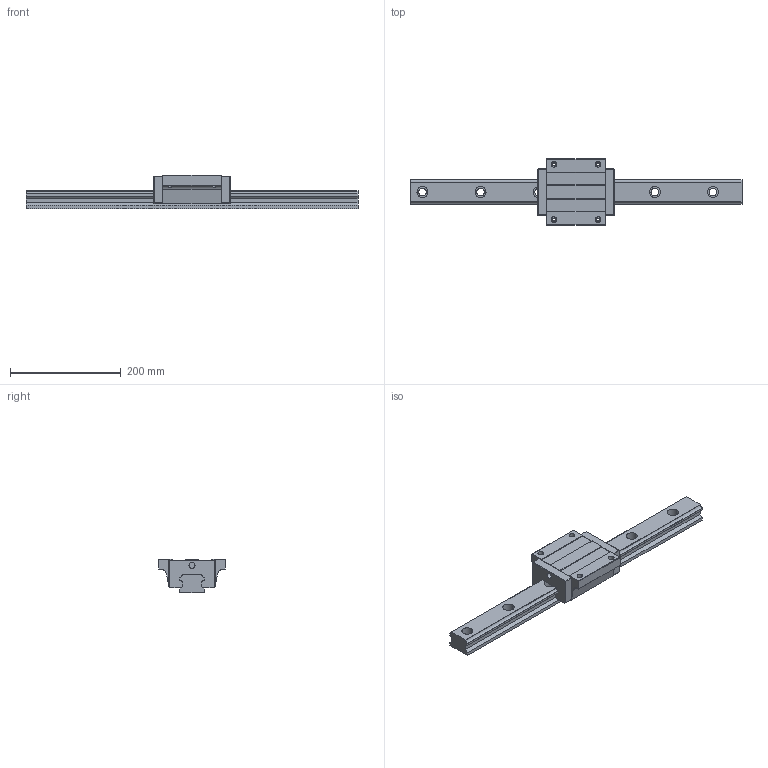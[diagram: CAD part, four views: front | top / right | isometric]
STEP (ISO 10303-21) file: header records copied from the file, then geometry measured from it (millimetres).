
FILE_DESCRIPTION (( 'STEP AP203' ), '1' );
FILE_NAME ('TRH45FL-XNC.STEP', '2024-08-16T05:59:10', ( '' ), ( '' ), 'SwSTEP 2.0', 'SolidWorks 2021', '' );
FILE_SCHEMA (( 'CONFIG_CONTROL_DESIGN' ));
Length unit declared in the file: millimetre
Products named in the file (1): TRH45FL-XNC
Bounding box: 600 x 120 x 60 mm (x, y, z)
Volume: 1230887.1 mm3; surface area: 163905.5 mm2
Topology: 1 solids, 1 shells, 187 faces, 510 edges, 330 vertices
Faces by surface type: cylinder 92, plane 91, sphere 4
Entity records: 6395 total; most frequent: CARTESIAN_POINT 1428, DIRECTION 1044, ORIENTED_EDGE 1012, EDGE_CURVE 506, AXIS2_PLACEMENT_3D 362, VERTEX_POINT 330, LINE 320, VECTOR 320
